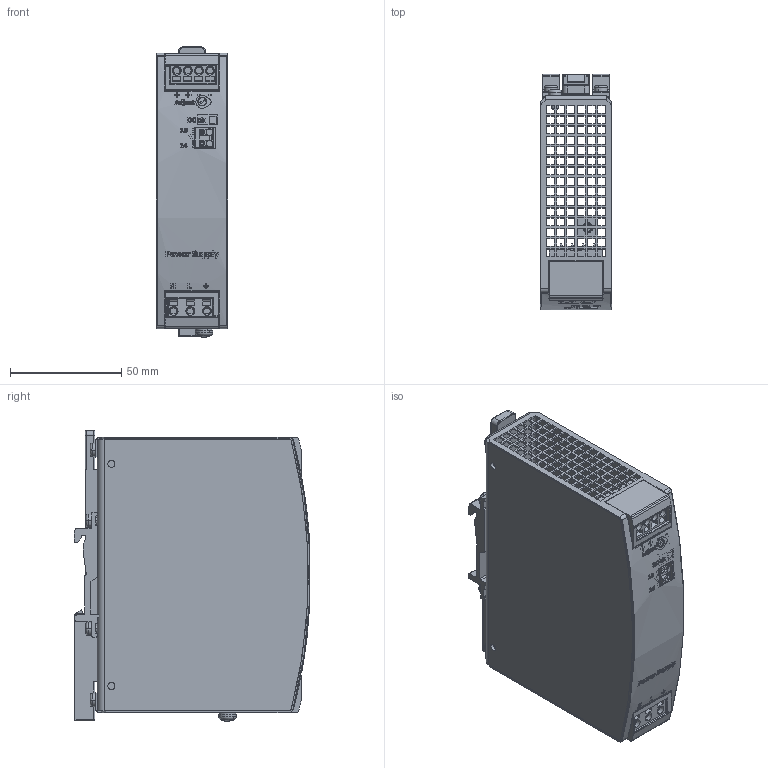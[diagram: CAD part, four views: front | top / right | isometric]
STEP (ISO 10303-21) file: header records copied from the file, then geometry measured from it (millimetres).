
FILE_DESCRIPTION (( 'STEP AP214' ), '1' );
FILE_NAME ('CP5.241-S2.STEP', '2022-02-21T22:31:26', ( '' ), ( '' ), 'SwSTEP 2.0', 'SolidWorks 2021', '' );
FILE_SCHEMA (( 'AUTOMOTIVE_DESIGN' ));
Length unit declared in the file: millimetre
Products named in the file (14): MKT_LP3BK-P4_BRep_Config; MKT_POTI_BRep_Config; MKT_T HOLDER1; MKT_SPRING WASHER A4_Feat_Config; MKT_LP4BK-P3_BRep_Config; HOUSING BODY 435.99_BRep_Config; FRONTFOIL 435.07_BRep_Config; MKT_SCREW 3x6_Feat_Config; MKT-LP2SW-16_Feat_Config; CP5.241-S2; MKT_LED GN_Feat_Config; HOUSING COVER 435.07_BRep_Config; MKT_SCREW 4x8_Feat_Config; MKT_SLIDER_Feat_Config
Assembly tree (19 placements, depth 2):
  CP5.241-S2
    HOUSING BODY 435.99_BRep_Config
    HOUSING COVER 435.07_BRep_Config
    MKT_T HOLDER1  x2
    MKT_SLIDER_Feat_Config
    MKT_SCREW 3x6_Feat_Config  x6
    MKT_SCREW 4x8_Feat_Config
    MKT_SPRING WASHER A4_Feat_Config
    MKT_POTI_BRep_Config
    MKT_LED GN_Feat_Config
    MKT-LP2SW-16_Feat_Config
    MKT_LP4BK-P3_BRep_Config
    MKT_LP3BK-P4_BRep_Config
    FRONTFOIL 435.07_BRep_Config
Bounding box: 32 x 106.19 x 130.77 mm (x, y, z)
Volume: 71864.2 mm3; surface area: 95210.7 mm2
Topology: 26 solids, 26 shells, 2867 faces, 7701 edges, 5047 vertices
Faces by surface type: plane 1987, cylinder 519, bspline 182, cone 133, torus 37, sphere 9
Entity records: 108930 total; most frequent: CARTESIAN_POINT 23360, ORIENTED_EDGE 14532, DIRECTION 13179, EDGE_CURVE 7266, LINE 5395, VECTOR 5395, VERTEX_POINT 4772, AXIS2_PLACEMENT_3D 3892
